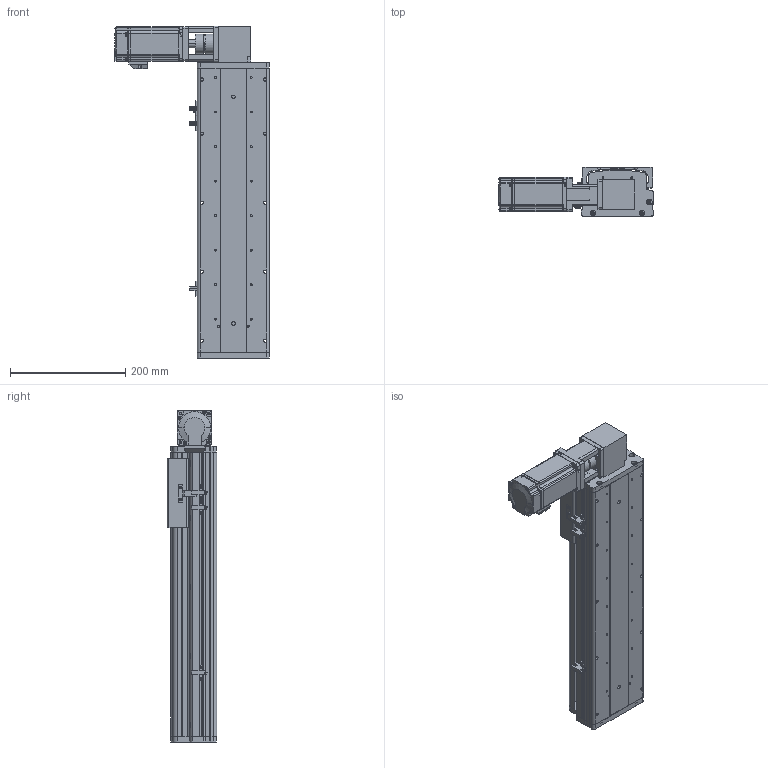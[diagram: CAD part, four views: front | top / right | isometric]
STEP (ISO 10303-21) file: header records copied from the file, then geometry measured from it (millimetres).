
FILE_DESCRIPTION (( 'STEP AP214' ), '1' );
FILE_NAME ('KSD125B-S300-MRT-CM.STEP', '2017-08-07T07:17:58', ( '微软用户' ), ( '微软中国' ), 'SwSTEP 2.0', 'SolidWorks 2014', '' );
FILE_SCHEMA (( 'AUTOMOTIVE_DESIGN' ));
Length unit declared in the file: millimetre
Products named in the file (16): KSD125模组300行程同步带-防尘盖; 125模组300行程同步带-底板; KSD125模组同步带-防撞垫2; CS-34X32-10X14; 100遵鎮湛假蚾啣1 ; 覜茼え68遵圉猾敕; U倰嫖萇假蚾璃; U倰嫖萇EEㄜSX672; KSD125模组同步带-防撞垫1; 100宽安装板同步带带电机座400W,86; 100宽马达安装板同步带右; 前端板-125宽模组同步带; 125模组同步带-尾端板1; KSD125模组同步带-滑动座1; KSD125B-S300-MRT-CM; MHMD042G1CA_2_03
Assembly tree (19 placements, depth 2):
  KSD125B-S300-MRT-CM
    KSD125模组同步带-滑动座1
    125模组同步带-尾端板1
    前端板-125宽模组同步带
    100宽马达安装板同步带右
    100宽安装板同步带带电机座400W,86
    KSD125模组同步带-防撞垫1
    U倰嫖萇EEㄜSX672  x3
    U倰嫖萇假蚾璃  x3
    覜茼え68遵圉猾敕
    100遵鎮湛假蚾啣1 
    CS-34X32-10X14
    KSD125模组同步带-防撞垫2
    125模组300行程同步带-底板
    KSD125模组300行程同步带-防尘盖
    MHMD042G1CA_2_03
Bounding box: 269 x 86 x 577 mm (x, y, z)
Volume: 2040084.1 mm3; surface area: 699650.8 mm2
Topology: 18 solids, 21 shells, 1620 faces, 4636 edges, 3056 vertices
Faces by surface type: cylinder 821, plane 696, cone 81, bspline 22
Entity records: 56484 total; most frequent: CARTESIAN_POINT 11486, DIRECTION 8251, ORIENTED_EDGE 7792, EDGE_CURVE 3974, AXIS2_PLACEMENT_3D 3045, VERTEX_POINT 2648, VECTOR 2161, LINE 2161
